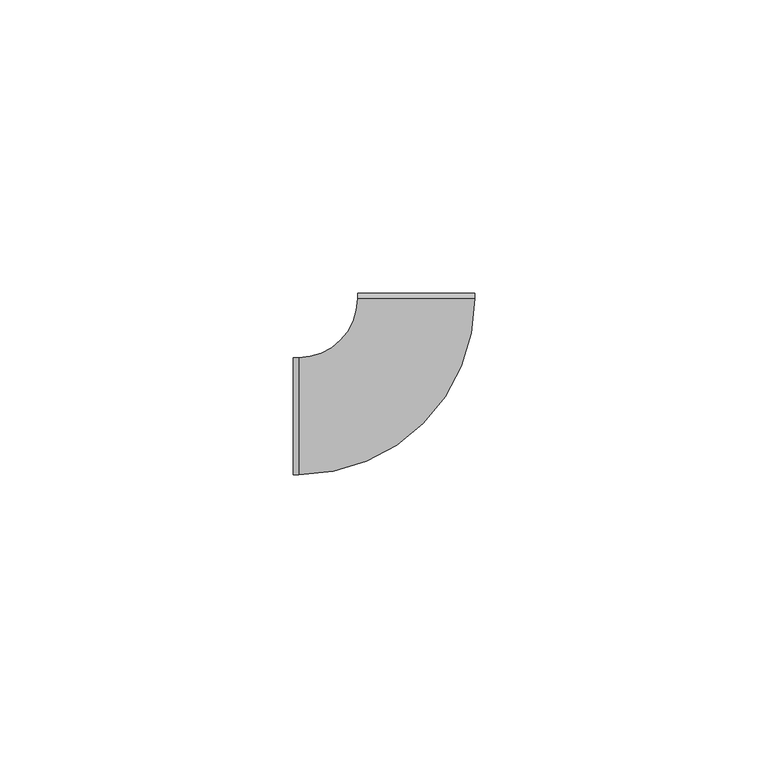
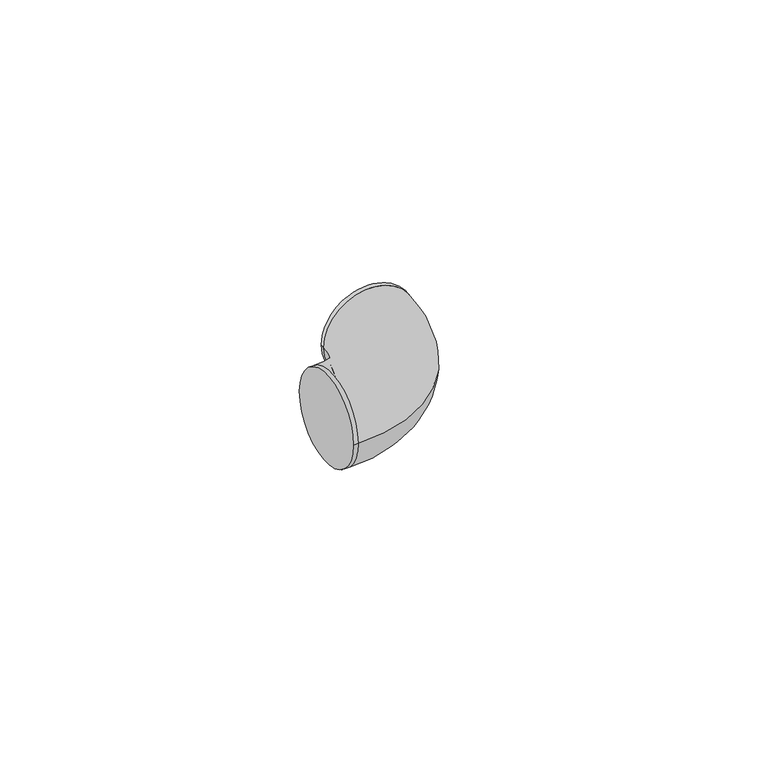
"""IFC4 building model written with IfcOpenShell, lengths in millimetres: cable carrier fitting geometry, ADSK_Поворот_Минимальный размер : Неспецифицируемый."""

from ifc_helpers import new_model, si_unit, point, frame, origin, place, context, project, spatial, circle_curve, ellipse_curve, trimmed, source, transform, mapped, element, save
from ifc_brep_helpers import plane_surface, cylinder_surface, revolved_surface, advanced_brep


def cable_carrier_fitting_99385771(model_context):
    return source(origin(), model_context, "Body", "AdvancedBrep", [
        advanced_brep(
        [(-21.0001569, -10.0, 0.0), (-21.0001569, 10.0, 0.0), (-20.0001569, -10.0, 0.0), (-20.0001569, 10.0, 0.0), (-10.0001569, 20.0000784, 0.0), (9.9998431, 20.0002353, 0.0), (9.9998353, 21.0002353, 0.0), (-10.0001647, 21.0000784, 0.0)],
        [
            (0, 1, circle_curve(frame((-21.0001569, 0.0, 0.0), z_axis=(-1.0, -4.92260399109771e-12, 0.0), x_axis=(-4.92260399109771e-12, 1.0, 0.0)), 10.0)),
            (1, 0, circle_curve(frame((-21.0001569, 0.0, 0.0), z_axis=(-1.0, -4.92260399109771e-12, 0.0), x_axis=(-4.92260399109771e-12, 1.0, 0.0)), 10.0)),
            (0, 2),
            (2, 3, circle_curve(frame((-20.0001569, 0.0, 0.0), z_axis=(-1.0, -4.92260399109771e-12, 0.0), x_axis=(-4.92260399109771e-12, 1.0, 0.0)), 10.0)),
            (3, 1),
            (3, 2, circle_curve(frame((-20.0001569, 0.0, 0.0), z_axis=(-1.0, -4.92260399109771e-12, 0.0), x_axis=(-4.92260399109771e-12, 1.0, 0.0)), 10.0)),
            (4, 3, circle_curve(frame((-20.0001569, 20.0, 0.0), z_axis=(0.0, 0.0, -1.0), x_axis=(0.0, -1.0, 0.0)), 10.0)),
            (2, 5, circle_curve(frame((-20.0001569, 20.0, 0.0), z_axis=(0.0, 0.0, 1.0), x_axis=(0.0, -1.0, 0.0)), 30.0)),
            (5, 4, circle_curve(frame((-0.0001569, 20.0001569, 0.0), z_axis=(7.84463511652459e-06, -0.9999999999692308, 0.0), x_axis=(-0.9999999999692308, -7.84463511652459e-06, 0.0)), 10.0)),
            (4, 5, circle_curve(frame((-0.0001569, 20.0001569, 0.0), z_axis=(7.84463511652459e-06, -0.9999999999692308, 0.0), x_axis=(-0.9999999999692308, -7.84463511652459e-06, 0.0)), 10.0)),
            (6, 7, circle_curve(frame((-0.0001647, 21.0001569, 0.0), z_axis=(-7.844635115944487e-06, 0.9999999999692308, 0.0), x_axis=(-0.9999999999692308, -7.844635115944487e-06, 0.0)), 10.0)),
            (7, 6, circle_curve(frame((-0.0001647, 21.0001569, 0.0), z_axis=(-7.844635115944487e-06, 0.9999999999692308, 0.0), x_axis=(-0.9999999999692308, -7.844635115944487e-06, 0.0)), 10.0)),
            (5, 6),
            (7, 4),
        ],
        [
            plane_surface(frame((-21.0001569, 0.0, 0.0), z_axis=(-1.0, -4.92260399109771e-12, 0.0), x_axis=(0.0, 0.0, 1.0))),
            cylinder_surface(frame((-21.0001569, 0.0, 0.0), z_axis=(-1.0, -4.92260399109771e-12, 0.0), x_axis=(-4.92260399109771e-12, 1.0, 0.0)), 10.0),
            revolved_surface(trimmed(ellipse_curve(frame((-20.0001569, 0.0, 0.0), z_axis=(-1.0, 0.0, 0.0), x_axis=(0.0, 1.0, 0.0)), 10.0, 10.0), [point((-20.0001569, -10.0, 0.0))], [point((-20.0001569, 10.0, 0.0))], True, "CARTESIAN"), (-20.0001569, 20.0, 0.0), (0.0, 0.0, 1.0)),
            revolved_surface(trimmed(ellipse_curve(frame((-20.0001569, 0.0, 0.0), z_axis=(-1.0, 0.0, 0.0), x_axis=(0.0, 1.0, 0.0)), 10.0, 10.0), [point((-20.0001569, 10.0, 0.0))], [point((-20.0001569, -10.0, 0.0))], True, "CARTESIAN"), (-20.0001569, 20.0, 0.0), (0.0, 0.0, 1.0)),
            plane_surface(frame((-0.0001647, 21.0001569, 0.0), z_axis=(-7.844635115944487e-06, 0.9999999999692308, 0.0), x_axis=(0.0, 0.0, 1.0))),
            cylinder_surface(frame((-0.0001569, 20.0001569, 0.0), z_axis=(7.844635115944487e-06, -0.9999999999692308, 0.0), x_axis=(-0.9999999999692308, -7.844635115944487e-06, 0.0)), 10.0),
        ],
        [
            (0, [[1, 2]]),
            (1, [[-1, 3, 4, 5]]),
            (1, [[-2, -5, 6, -3]]),
            (2, [[7, -4, 8, 9]]),
            (3, [[-8, -6, -7, 10]]),
            (4, [[11, 12]]),
            (5, [[-9, 13, -12, 14]]),
            (5, [[-10, -14, -11, -13]]),
        ],
    ),
    ])


if __name__ == "__main__":
    model = new_model("IFC4")
    model_context = context("Model", 3, world=origin())
    ifc_project = project(units=[si_unit("LENGTHUNIT", "METRE", prefix="MILLI")], contexts=[model_context])
    site = spatial("IfcSite", under=ifc_project)
    building = spatial("IfcBuilding", under=site)
    placement = place(None, origin())
    cable_carrier_fitting_shape = cable_carrier_fitting_99385771(model_context)
    element("IfcCableCarrierFitting", 1, ObjectType="ADSK_Поворот_Минимальный размер : Неспецифицируемый", at=placement, inside=building, context=model_context, shape_type="MappedRepresentation", body=[
        mapped(cable_carrier_fitting_shape, transform((0.0, 0.0, 0.0), x_axis=(1.0, 0.0, 0.0), y_axis=(0.0, 1.0, 0.0), z_axis=(0.0, 0.0, 1.0))),
    ])
    save(model, "model.ifc")
